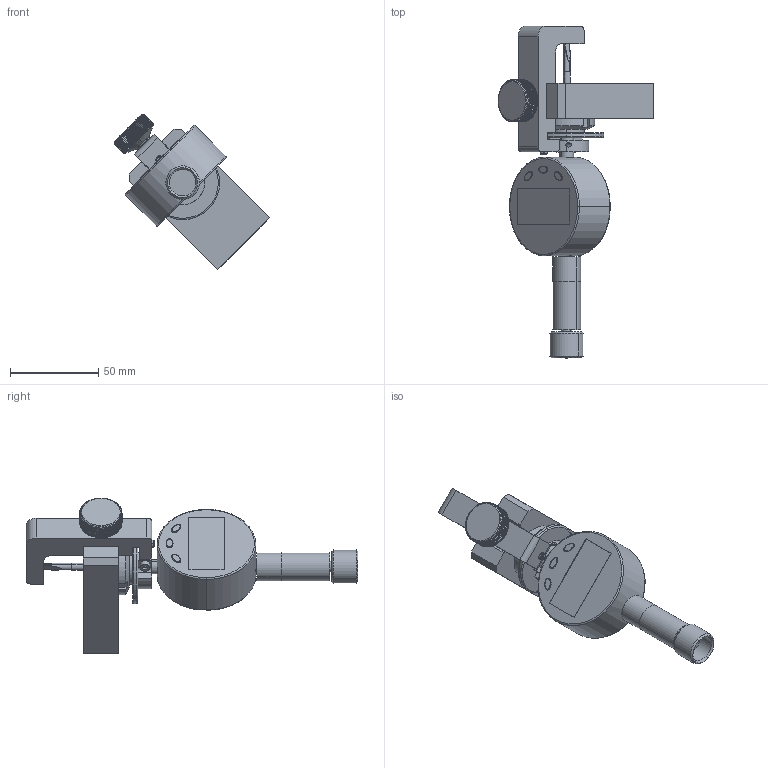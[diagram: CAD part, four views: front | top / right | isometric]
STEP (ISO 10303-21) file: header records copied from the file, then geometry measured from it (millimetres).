
FILE_DESCRIPTION(('CATIA V5 STEP Exchange'),'2;1');
FILE_NAME('C:\Dokumente und Einstellungen\Administrator\Desktop\deep-tech-eng\Kontakte\D\DTE\VORLAGEN\Downloadinfos_von_DTE\Messuhr_fest_gerade\S0002-01-Schwert_ZSB_MESSUHR_FEST+MASTER_BUGEL_AN_MESSUHR_AllCATPart.stp','2010-11-07T10:54:12+00:00',('none'),('none'),'CATIA Version 5 Release 19 GA (IN-10)','CATIA V5 STEP AP203','none');
FILE_SCHEMA(('CONFIG_CONTROL_DESIGN'));
Length unit declared in the file: millimetre
Products named in the file (1): S0002-01-Schwert_ZSB_MESSUHR_FEST+MASTER_BUGEL_AN_MESSUHR_AllCATPart
Bounding box: 88.39 x 188.5 x 88.39 mm (x, y, z)
Volume: 167419.7 mm3; surface area: 51795.5 mm2
Topology: 21 solids, 22 shells, 666 faces, 1725 edges, 1113 vertices
Faces by surface type: plane 322, cylinder 227, cone 75, bspline 18, torus 14, extrusion 6, sphere 4
Entity records: 23575 total; most frequent: CARTESIAN_POINT 9037, ORIENTED_EDGE 3426, DIRECTION 2182, EDGE_CURVE 1713, VERTEX_POINT 1110, AXIS2_PLACEMENT_3D 1014, EDGE_LOOP 717, VECTOR 686
